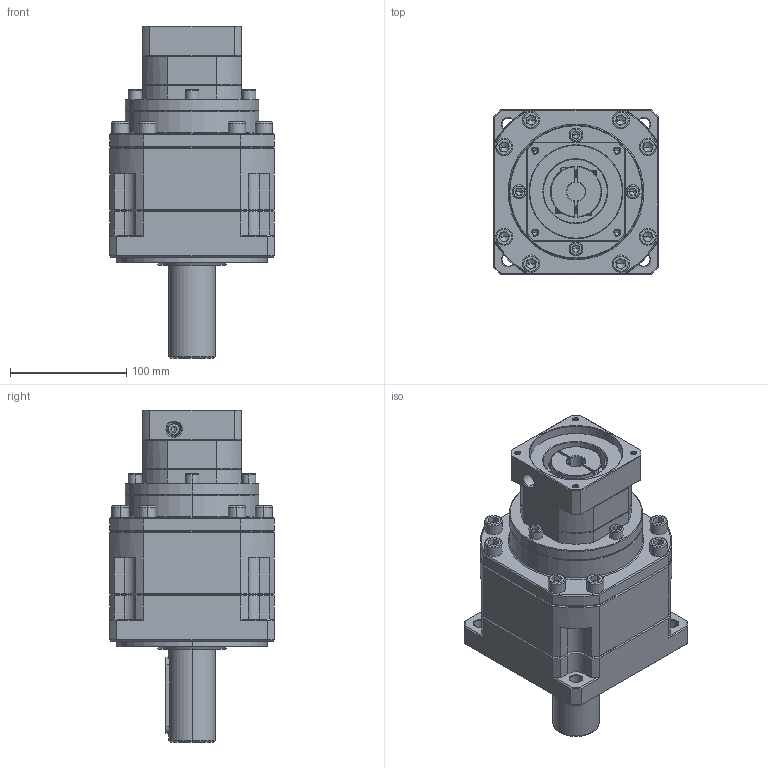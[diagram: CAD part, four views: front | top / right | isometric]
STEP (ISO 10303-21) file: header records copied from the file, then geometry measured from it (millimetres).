
FILE_DESCRIPTION (( 'STEP AP214' ), '1' );
FILE_NAME ('ZB142A-D40-L3-16-80-100-M6.step', '2023-03-18T08:15:50', ( '' ), ( '' ), 'SwSTEP 2.0', 'SolidWorks 2016', '' );
FILE_SCHEMA (( 'AUTOMOTIVE_DESIGN' ));
Length unit declared in the file: millimetre
Products named in the file (1): ZB142A-D40-L3-16-80-100-M6
Bounding box: 142 x 142 x 286.2 mm (x, y, z)
Volume: 2765357.3 mm3; surface area: 200353.5 mm2
Topology: 5 solids, 6 shells, 2263 faces, 5790 edges, 3643 vertices
Faces by surface type: plane 1056, cylinder 473, cone 374, bspline 299, torus 61
Entity records: 118270 total; most frequent: CARTESIAN_POINT 41290, ORIENTED_EDGE 11472, DIRECTION 9706, EDGE_CURVE 5736, VERTEX_POINT 3643, VECTOR 3584, LINE 3584, AXIS2_PLACEMENT_3D 3061
